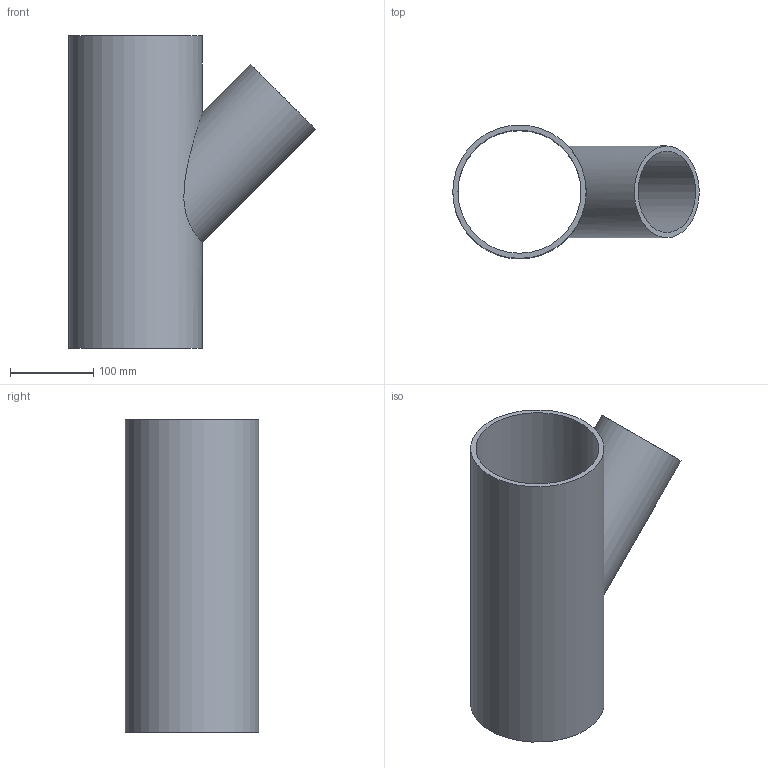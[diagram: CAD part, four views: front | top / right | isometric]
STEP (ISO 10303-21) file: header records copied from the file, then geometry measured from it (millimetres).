
FILE_DESCRIPTION(/* description */ (''),/* implementation_level */ '2;1');
FILE_NAME(/* name */ 'C:\Planerdaten\Export PLA\PRO_101557\stp\369135.stp',/* time_stamp */ '2021-09-30T15:08:00+02:00',/* author */ ('JANAN'),/* organization */ (''),/* preprocessor_version */ 'ST-DEVELOPER v16.13',/* originating_system */ 'Autodesk Inventor 2018',/* authorisation */ '');
FILE_SCHEMA (('AUTOMOTIVE_DESIGN { 1 0 10303 214 3 1 1 }'));
Length unit declared in the file: millimetre
Products named in the file (1): tmp20A7.tmp
Bounding box: 295.67 x 160 x 375 mm (x, y, z)
Volume: 1356960.5 mm3; surface area: 445644.5 mm2
Topology: 1 solids, 1 shells, 7 faces, 17 edges, 12 vertices
Faces by surface type: cylinder 4, plane 3
Full cylindrical faces by diameter (mm): 97.6 x1, 110 x1, 147.6 x1, 160 x1
Entity records: 336 total; most frequent: CARTESIAN_POINT 158, DIRECTION 28, EDGE_LOOP 16, ORIENTED_EDGE 16, AXIS2_PLACEMENT_3D 14, FACE_BOUND 9, VERTEX_POINT 8, EDGE_CURVE 8
